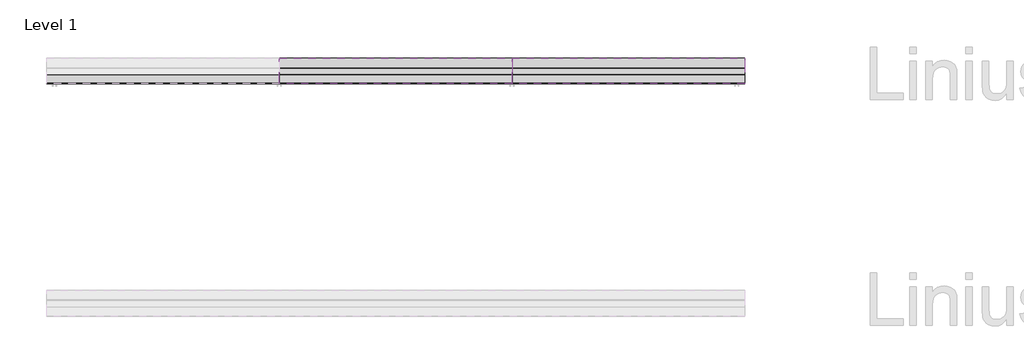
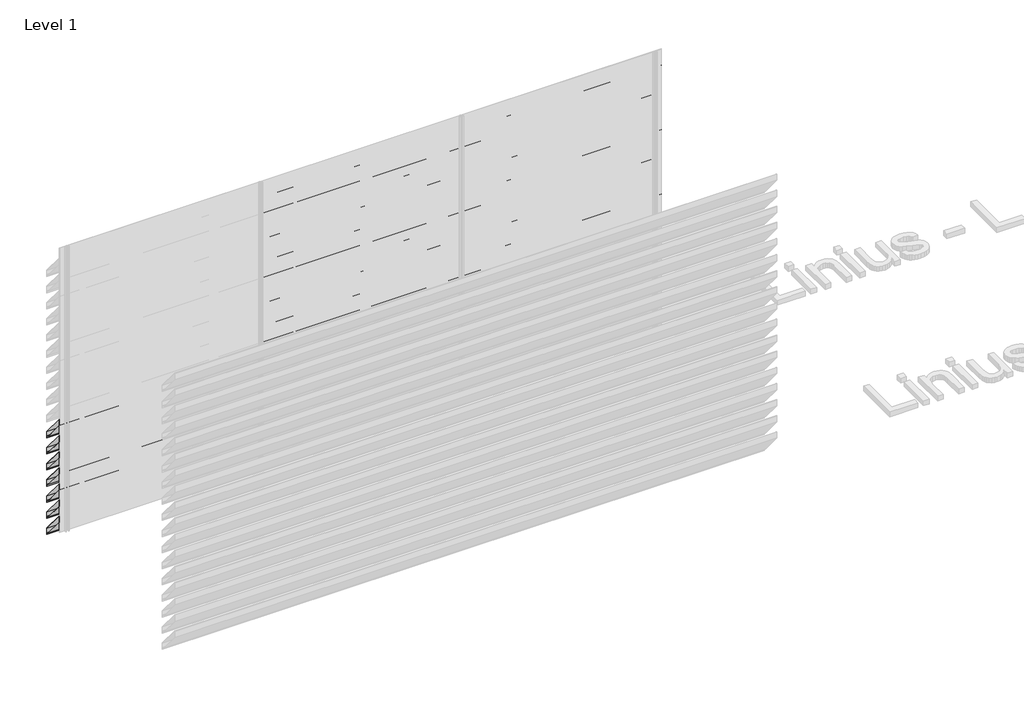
# One storey, part 100 of 121: 41 proxies.
"""IFC4 building model written with IfcOpenShell, lengths in millimetres."""

from ifc_helpers import new_model, si_unit, frame, origin, place, context, project, spatial, polyline, outline, extrude, element, save

model = new_model("IFC4")

# Units and contexts
model_context = context("Model", 3, world=origin())
ifc_project = project(units=[si_unit("LENGTHUNIT", "METRE", prefix="MILLI")], contexts=[model_context])

# Site, building, storey
site = spatial("IfcSite", under=ifc_project)
building = spatial("IfcBuilding", under=site)
storey = spatial("IfcBuildingStorey", under=building, Name="Level 1", Elevation=0.0)

# Proxies
placement = place(None, origin())
element("IfcBuildingElementProxy", 1, Name="Wall Sweeps", at=placement, inside=storey, context=model_context, shape_type="SweptSolid", body=[
    extrude(outline(polyline([(66705.0540136, 931.0), (66705.0540136, 862.0), (66702.5540136, 863.1657691), (66702.5540136, 876.7059843), (66685.8041465, 896.6676986), (66675.1189071, 896.6676986), (66483.0540136, 1125.5617253), (66483.0540136, 1190.0), (66487.7272091, 1190.0), (66705.0540136, 931.0)]), holes=[polyline([(66486.8412246, 1188.1), (66484.9540136, 1188.1), (66484.9540136, 1126.2532688), (66676.0048916, 898.5676986), (66686.6901311, 898.5676986), (66703.1540136, 878.9468074), (66703.1540136, 930.3084566), (66486.8412246, 1188.1)])]), frame((466.6208097, 0.0, 0.0), z_axis=(1.0, 0.0, 0.0), x_axis=(0.0, 1.0, 0.0)), (0.0, 0.0, 1.0), 2000.0),
])
element("IfcBuildingElementProxy", 2, Name="Wall Sweeps", at=placement, inside=storey, context=model_context, shape_type="SweptSolid", body=[
    extrude(outline(polyline([(66705.0540136, 761.0), (66705.0540136, 692.0), (66702.5540136, 693.1657691), (66702.5540136, 706.7059843), (66685.8041465, 726.6676986), (66675.1189071, 726.6676986), (66483.0540136, 955.5617253), (66483.0540136, 1020.0), (66487.7272091, 1020.0), (66705.0540136, 761.0)]), holes=[polyline([(66486.8412246, 1018.1), (66484.9540136, 1018.1), (66484.9540136, 956.2532688), (66676.0048916, 728.5676986), (66686.6901311, 728.5676986), (66703.1540136, 708.9468074), (66703.1540136, 760.3084566), (66486.8412246, 1018.1)])]), frame((466.6208097, 0.0, 0.0), z_axis=(1.0, 0.0, 0.0), x_axis=(0.0, 1.0, 0.0)), (0.0, 0.0, 1.0), 2000.0),
])
element("IfcBuildingElementProxy", 3, Name="Wall Sweeps", at=placement, inside=storey, context=model_context, shape_type="SweptSolid", body=[
    extrude(outline(polyline([(66705.0540136, 591.0), (66705.0540136, 522.0), (66702.5540136, 523.1657691), (66702.5540136, 536.7059843), (66685.8041465, 556.6676986), (66675.1189071, 556.6676986), (66483.0540136, 785.5617253), (66483.0540136, 850.0), (66487.7272091, 850.0), (66705.0540136, 591.0)]), holes=[polyline([(66486.8412246, 848.1), (66484.9540136, 848.1), (66484.9540136, 786.2532688), (66676.0048916, 558.5676986), (66686.6901311, 558.5676986), (66703.1540136, 538.9468074), (66703.1540136, 590.3084566), (66486.8412246, 848.1)])]), frame((466.6208097, 0.0, 0.0), z_axis=(1.0, 0.0, 0.0), x_axis=(0.0, 1.0, 0.0)), (0.0, 0.0, 1.0), 2000.0),
])
element("IfcBuildingElementProxy", 4, Name="Wall Sweeps", at=placement, inside=storey, context=model_context, shape_type="SweptSolid", body=[
    extrude(outline(polyline([(66705.0540136, 421.0), (66705.0540136, 352.0), (66702.5540136, 353.1657691), (66702.5540136, 366.7059843), (66685.8041465, 386.6676986), (66675.1189071, 386.6676986), (66483.0540136, 615.5617253), (66483.0540136, 680.0), (66487.7272091, 680.0), (66705.0540136, 421.0)]), holes=[polyline([(66486.8412246, 678.1), (66484.9540136, 678.1), (66484.9540136, 616.2532688), (66676.0048916, 388.5676986), (66686.6901311, 388.5676986), (66703.1540136, 368.9468074), (66703.1540136, 420.3084566), (66486.8412246, 678.1)])]), frame((466.6208097, 0.0, 0.0), z_axis=(1.0, 0.0, 0.0), x_axis=(0.0, 1.0, 0.0)), (0.0, 0.0, 1.0), 2000.0),
])
element("IfcBuildingElementProxy", 5, Name="Wall Sweeps", at=placement, inside=storey, context=model_context, shape_type="SweptSolid", body=[
    extrude(outline(polyline([(66705.0540136, 251.0), (66705.0540136, 182.0), (66702.5540136, 183.1657691), (66702.5540136, 196.7059843), (66685.8041465, 216.6676986), (66675.1189071, 216.6676986), (66483.0540136, 445.5617253), (66483.0540136, 510.0), (66487.7272091, 510.0), (66705.0540136, 251.0)]), holes=[polyline([(66486.8412246, 508.1), (66484.9540136, 508.1), (66484.9540136, 446.2532688), (66676.0048916, 218.5676986), (66686.6901311, 218.5676986), (66703.1540136, 198.9468074), (66703.1540136, 250.3084566), (66486.8412246, 508.1)])]), frame((466.6208097, 0.0, 0.0), z_axis=(1.0, 0.0, 0.0), x_axis=(0.0, 1.0, 0.0)), (0.0, 0.0, 1.0), 2000.0),
])
element("IfcBuildingElementProxy", 6, Name="Wall Sweeps", at=placement, inside=storey, context=model_context, shape_type="SweptSolid", body=[
    extrude(outline(polyline([(66705.0540136, 81.0), (66705.0540136, 12.0), (66702.5540136, 13.1657691), (66702.5540136, 26.7059843), (66685.8041465, 46.6676986), (66675.1189071, 46.6676986), (66483.0540136, 275.5617253), (66483.0540136, 340.0), (66487.7272091, 340.0), (66705.0540136, 81.0)]), holes=[polyline([(66486.8412246, 338.1), (66484.9540136, 338.1), (66484.9540136, 276.2532688), (66676.0048916, 48.5676986), (66686.6901311, 48.5676986), (66703.1540136, 28.9468074), (66703.1540136, 80.3084566), (66486.8412246, 338.1)])]), frame((466.6208097, 0.0, 0.0), z_axis=(1.0, 0.0, 0.0), x_axis=(0.0, 1.0, 0.0)), (0.0, 0.0, 1.0), 2000.0),
])
element("IfcBuildingElementProxy", 7, Name="Wall Sweeps", at=placement, inside=storey, context=model_context, shape_type="SweptSolid", body=[
    extrude(outline(polyline([(66705.0540136, -89.0), (66705.0540136, -158.0), (66702.5540136, -156.8342309), (66702.5540136, -143.2940157), (66685.8041465, -123.3323014), (66675.1189071, -123.3323014), (66483.0540136, 105.5617253), (66483.0540136, 170.0), (66487.7272091, 170.0), (66705.0540136, -89.0)]), holes=[polyline([(66486.8412246, 168.1), (66484.9540136, 168.1), (66484.9540136, 106.2532688), (66676.0048916, -121.4323014), (66686.6901311, -121.4323014), (66703.1540136, -141.0531926), (66703.1540136, -89.6915434), (66486.8412246, 168.1)])]), frame((466.6208097, 0.0, 0.0), z_axis=(1.0, 0.0, 0.0), x_axis=(0.0, 1.0, 0.0)), (0.0, 0.0, 1.0), 2000.0),
])
element("IfcBuildingElementProxy", 8, Name="Wall Sweeps", at=placement, inside=storey, context=model_context, shape_type="SweptSolid", body=[
    extrude(outline(polyline([(66705.0540136, 2631.0), (66705.0540136, 2562.0), (66702.5540136, 2563.1657691), (66702.5540136, 2576.7059843), (66685.8041465, 2596.6676986), (66675.1189071, 2596.6676986), (66483.0540136, 2825.5617253), (66483.0540136, 2890.0), (66487.7272091, 2890.0), (66705.0540136, 2631.0)]), holes=[polyline([(66486.8412246, 2888.1), (66484.9540136, 2888.1), (66484.9540136, 2826.2532688), (66676.0048916, 2598.5676986), (66686.6901311, 2598.5676986), (66703.1540136, 2578.9468074), (66703.1540136, 2630.3084566), (66486.8412246, 2888.1)])]), frame((2466.6208097, 0.0, 0.0), z_axis=(1.0, 0.0, 0.0), x_axis=(0.0, 1.0, 0.0)), (0.0, 0.0, 1.0), 2000.0),
])
element("IfcBuildingElementProxy", 9, Name="Wall Sweeps", at=placement, inside=storey, context=model_context, shape_type="SweptSolid", body=[
    extrude(outline(polyline([(66705.0540136, 2461.0), (66705.0540136, 2392.0), (66702.5540136, 2393.1657691), (66702.5540136, 2406.7059843), (66685.8041465, 2426.6676986), (66675.1189071, 2426.6676986), (66483.0540136, 2655.5617253), (66483.0540136, 2720.0), (66487.7272091, 2720.0), (66705.0540136, 2461.0)]), holes=[polyline([(66486.8412246, 2718.1), (66484.9540136, 2718.1), (66484.9540136, 2656.2532688), (66676.0048916, 2428.5676986), (66686.6901311, 2428.5676986), (66703.1540136, 2408.9468074), (66703.1540136, 2460.3084566), (66486.8412246, 2718.1)])]), frame((2466.6208097, 0.0, 0.0), z_axis=(1.0, 0.0, 0.0), x_axis=(0.0, 1.0, 0.0)), (0.0, 0.0, 1.0), 2000.0),
])
element("IfcBuildingElementProxy", 10, Name="Wall Sweeps", at=placement, inside=storey, context=model_context, shape_type="SweptSolid", body=[
    extrude(outline(polyline([(66705.0540136, 2291.0), (66705.0540136, 2222.0), (66702.5540136, 2223.1657691), (66702.5540136, 2236.7059843), (66685.8041465, 2256.6676986), (66675.1189071, 2256.6676986), (66483.0540136, 2485.5617253), (66483.0540136, 2550.0), (66487.7272091, 2550.0), (66705.0540136, 2291.0)]), holes=[polyline([(66486.8412246, 2548.1), (66484.9540136, 2548.1), (66484.9540136, 2486.2532688), (66676.0048916, 2258.5676986), (66686.6901311, 2258.5676986), (66703.1540136, 2238.9468074), (66703.1540136, 2290.3084566), (66486.8412246, 2548.1)])]), frame((2466.6208097, 0.0, 0.0), z_axis=(1.0, 0.0, 0.0), x_axis=(0.0, 1.0, 0.0)), (0.0, 0.0, 1.0), 2000.0),
])
element("IfcBuildingElementProxy", 11, Name="Wall Sweeps", at=placement, inside=storey, context=model_context, shape_type="SweptSolid", body=[
    extrude(outline(polyline([(66705.0540136, 2121.0), (66705.0540136, 2052.0), (66702.5540136, 2053.1657691), (66702.5540136, 2066.7059843), (66685.8041465, 2086.6676986), (66675.1189071, 2086.6676986), (66483.0540136, 2315.5617253), (66483.0540136, 2380.0), (66487.7272091, 2380.0), (66705.0540136, 2121.0)]), holes=[polyline([(66486.8412246, 2378.1), (66484.9540136, 2378.1), (66484.9540136, 2316.2532688), (66676.0048916, 2088.5676986), (66686.6901311, 2088.5676986), (66703.1540136, 2068.9468074), (66703.1540136, 2120.3084566), (66486.8412246, 2378.1)])]), frame((2466.6208097, 0.0, 0.0), z_axis=(1.0, 0.0, 0.0), x_axis=(0.0, 1.0, 0.0)), (0.0, 0.0, 1.0), 2000.0),
])
element("IfcBuildingElementProxy", 12, Name="Wall Sweeps", at=placement, inside=storey, context=model_context, shape_type="SweptSolid", body=[
    extrude(outline(polyline([(66705.0540136, 1951.0), (66705.0540136, 1882.0), (66702.5540136, 1883.1657691), (66702.5540136, 1896.7059843), (66685.8041465, 1916.6676986), (66675.1189071, 1916.6676986), (66483.0540136, 2145.5617253), (66483.0540136, 2210.0), (66487.7272091, 2210.0), (66705.0540136, 1951.0)]), holes=[polyline([(66486.8412246, 2208.1), (66484.9540136, 2208.1), (66484.9540136, 2146.2532688), (66676.0048916, 1918.5676986), (66686.6901311, 1918.5676986), (66703.1540136, 1898.9468074), (66703.1540136, 1950.3084566), (66486.8412246, 2208.1)])]), frame((2466.6208097, 0.0, 0.0), z_axis=(1.0, 0.0, 0.0), x_axis=(0.0, 1.0, 0.0)), (0.0, 0.0, 1.0), 2000.0),
])
element("IfcBuildingElementProxy", 13, Name="Wall Sweeps", at=placement, inside=storey, context=model_context, shape_type="SweptSolid", body=[
    extrude(outline(polyline([(66705.0540136, 1781.0), (66705.0540136, 1712.0), (66702.5540136, 1713.1657691), (66702.5540136, 1726.7059843), (66685.8041465, 1746.6676986), (66675.1189071, 1746.6676986), (66483.0540136, 1975.5617253), (66483.0540136, 2040.0), (66487.7272091, 2040.0), (66705.0540136, 1781.0)]), holes=[polyline([(66486.8412246, 2038.1), (66484.9540136, 2038.1), (66484.9540136, 1976.2532688), (66676.0048916, 1748.5676986), (66686.6901311, 1748.5676986), (66703.1540136, 1728.9468074), (66703.1540136, 1780.3084566), (66486.8412246, 2038.1)])]), frame((2466.6208097, 0.0, 0.0), z_axis=(1.0, 0.0, 0.0), x_axis=(0.0, 1.0, 0.0)), (0.0, 0.0, 1.0), 2000.0),
])
element("IfcBuildingElementProxy", 14, Name="Wall Sweeps", at=placement, inside=storey, context=model_context, shape_type="SweptSolid", body=[
    extrude(outline(polyline([(66705.0540136, 1611.0), (66705.0540136, 1542.0), (66702.5540136, 1543.1657691), (66702.5540136, 1556.7059843), (66685.8041465, 1576.6676986), (66675.1189071, 1576.6676986), (66483.0540136, 1805.5617253), (66483.0540136, 1870.0), (66487.7272091, 1870.0), (66705.0540136, 1611.0)]), holes=[polyline([(66486.8412246, 1868.1), (66484.9540136, 1868.1), (66484.9540136, 1806.2532688), (66676.0048916, 1578.5676986), (66686.6901311, 1578.5676986), (66703.1540136, 1558.9468074), (66703.1540136, 1610.3084566), (66486.8412246, 1868.1)])]), frame((2466.6208097, 0.0, 0.0), z_axis=(1.0, 0.0, 0.0), x_axis=(0.0, 1.0, 0.0)), (0.0, 0.0, 1.0), 2000.0),
])
element("IfcBuildingElementProxy", 15, Name="Wall Sweeps", at=placement, inside=storey, context=model_context, shape_type="SweptSolid", body=[
    extrude(outline(polyline([(66705.0540136, 1441.0), (66705.0540136, 1372.0), (66702.5540136, 1373.1657691), (66702.5540136, 1386.7059843), (66685.8041465, 1406.6676986), (66675.1189071, 1406.6676986), (66483.0540136, 1635.5617253), (66483.0540136, 1700.0), (66487.7272091, 1700.0), (66705.0540136, 1441.0)]), holes=[polyline([(66486.8412246, 1698.1), (66484.9540136, 1698.1), (66484.9540136, 1636.2532688), (66676.0048916, 1408.5676986), (66686.6901311, 1408.5676986), (66703.1540136, 1388.9468074), (66703.1540136, 1440.3084566), (66486.8412246, 1698.1)])]), frame((2466.6208097, 0.0, 0.0), z_axis=(1.0, 0.0, 0.0), x_axis=(0.0, 1.0, 0.0)), (0.0, 0.0, 1.0), 2000.0),
])
element("IfcBuildingElementProxy", 16, Name="Wall Sweeps", at=placement, inside=storey, context=model_context, shape_type="SweptSolid", body=[
    extrude(outline(polyline([(66705.0540136, 1271.0), (66705.0540136, 1202.0), (66702.5540136, 1203.1657691), (66702.5540136, 1216.7059843), (66685.8041465, 1236.6676986), (66675.1189071, 1236.6676986), (66483.0540136, 1465.5617253), (66483.0540136, 1530.0), (66487.7272091, 1530.0), (66705.0540136, 1271.0)]), holes=[polyline([(66486.8412246, 1528.1), (66484.9540136, 1528.1), (66484.9540136, 1466.2532688), (66676.0048916, 1238.5676986), (66686.6901311, 1238.5676986), (66703.1540136, 1218.9468074), (66703.1540136, 1270.3084566), (66486.8412246, 1528.1)])]), frame((2466.6208097, 0.0, 0.0), z_axis=(1.0, 0.0, 0.0), x_axis=(0.0, 1.0, 0.0)), (0.0, 0.0, 1.0), 2000.0),
])
element("IfcBuildingElementProxy", 17, Name="Wall Sweeps", at=placement, inside=storey, context=model_context, shape_type="SweptSolid", body=[
    extrude(outline(polyline([(66705.0540136, 1101.0), (66705.0540136, 1032.0), (66702.5540136, 1033.1657691), (66702.5540136, 1046.7059843), (66685.8041465, 1066.6676986), (66675.1189071, 1066.6676986), (66483.0540136, 1295.5617253), (66483.0540136, 1360.0), (66487.7272091, 1360.0), (66705.0540136, 1101.0)]), holes=[polyline([(66486.8412246, 1358.1), (66484.9540136, 1358.1), (66484.9540136, 1296.2532688), (66676.0048916, 1068.5676986), (66686.6901311, 1068.5676986), (66703.1540136, 1048.9468074), (66703.1540136, 1100.3084566), (66486.8412246, 1358.1)])]), frame((2466.6208097, 0.0, 0.0), z_axis=(1.0, 0.0, 0.0), x_axis=(0.0, 1.0, 0.0)), (0.0, 0.0, 1.0), 2000.0),
])
element("IfcBuildingElementProxy", 18, Name="Wall Sweeps", at=placement, inside=storey, context=model_context, shape_type="SweptSolid", body=[
    extrude(outline(polyline([(66705.0540136, 931.0), (66705.0540136, 862.0), (66702.5540136, 863.1657691), (66702.5540136, 876.7059843), (66685.8041465, 896.6676986), (66675.1189071, 896.6676986), (66483.0540136, 1125.5617253), (66483.0540136, 1190.0), (66487.7272091, 1190.0), (66705.0540136, 931.0)]), holes=[polyline([(66486.8412246, 1188.1), (66484.9540136, 1188.1), (66484.9540136, 1126.2532688), (66676.0048916, 898.5676986), (66686.6901311, 898.5676986), (66703.1540136, 878.9468074), (66703.1540136, 930.3084566), (66486.8412246, 1188.1)])]), frame((2466.6208097, 0.0, 0.0), z_axis=(1.0, 0.0, 0.0), x_axis=(0.0, 1.0, 0.0)), (0.0, 0.0, 1.0), 2000.0),
])
element("IfcBuildingElementProxy", 19, Name="Wall Sweeps", at=placement, inside=storey, context=model_context, shape_type="SweptSolid", body=[
    extrude(outline(polyline([(66705.0540136, 761.0), (66705.0540136, 692.0), (66702.5540136, 693.1657691), (66702.5540136, 706.7059843), (66685.8041465, 726.6676986), (66675.1189071, 726.6676986), (66483.0540136, 955.5617253), (66483.0540136, 1020.0), (66487.7272091, 1020.0), (66705.0540136, 761.0)]), holes=[polyline([(66486.8412246, 1018.1), (66484.9540136, 1018.1), (66484.9540136, 956.2532688), (66676.0048916, 728.5676986), (66686.6901311, 728.5676986), (66703.1540136, 708.9468074), (66703.1540136, 760.3084566), (66486.8412246, 1018.1)])]), frame((2466.6208097, 0.0, 0.0), z_axis=(1.0, 0.0, 0.0), x_axis=(0.0, 1.0, 0.0)), (0.0, 0.0, 1.0), 2000.0),
])
element("IfcBuildingElementProxy", 20, Name="Wall Sweeps", at=placement, inside=storey, context=model_context, shape_type="SweptSolid", body=[
    extrude(outline(polyline([(66705.0540136, 591.0), (66705.0540136, 522.0), (66702.5540136, 523.1657691), (66702.5540136, 536.7059843), (66685.8041465, 556.6676986), (66675.1189071, 556.6676986), (66483.0540136, 785.5617253), (66483.0540136, 850.0), (66487.7272091, 850.0), (66705.0540136, 591.0)]), holes=[polyline([(66486.8412246, 848.1), (66484.9540136, 848.1), (66484.9540136, 786.2532688), (66676.0048916, 558.5676986), (66686.6901311, 558.5676986), (66703.1540136, 538.9468074), (66703.1540136, 590.3084566), (66486.8412246, 848.1)])]), frame((2466.6208097, 0.0, 0.0), z_axis=(1.0, 0.0, 0.0), x_axis=(0.0, 1.0, 0.0)), (0.0, 0.0, 1.0), 2000.0),
])
element("IfcBuildingElementProxy", 21, Name="Wall Sweeps", at=placement, inside=storey, context=model_context, shape_type="SweptSolid", body=[
    extrude(outline(polyline([(66705.0540136, 421.0), (66705.0540136, 352.0), (66702.5540136, 353.1657691), (66702.5540136, 366.7059843), (66685.8041465, 386.6676986), (66675.1189071, 386.6676986), (66483.0540136, 615.5617253), (66483.0540136, 680.0), (66487.7272091, 680.0), (66705.0540136, 421.0)]), holes=[polyline([(66486.8412246, 678.1), (66484.9540136, 678.1), (66484.9540136, 616.2532688), (66676.0048916, 388.5676986), (66686.6901311, 388.5676986), (66703.1540136, 368.9468074), (66703.1540136, 420.3084566), (66486.8412246, 678.1)])]), frame((2466.6208097, 0.0, 0.0), z_axis=(1.0, 0.0, 0.0), x_axis=(0.0, 1.0, 0.0)), (0.0, 0.0, 1.0), 2000.0),
])
element("IfcBuildingElementProxy", 22, Name="Wall Sweeps", at=placement, inside=storey, context=model_context, shape_type="SweptSolid", body=[
    extrude(outline(polyline([(66705.0540136, 251.0), (66705.0540136, 182.0), (66702.5540136, 183.1657691), (66702.5540136, 196.7059843), (66685.8041465, 216.6676986), (66675.1189071, 216.6676986), (66483.0540136, 445.5617253), (66483.0540136, 510.0), (66487.7272091, 510.0), (66705.0540136, 251.0)]), holes=[polyline([(66486.8412246, 508.1), (66484.9540136, 508.1), (66484.9540136, 446.2532688), (66676.0048916, 218.5676986), (66686.6901311, 218.5676986), (66703.1540136, 198.9468074), (66703.1540136, 250.3084566), (66486.8412246, 508.1)])]), frame((2466.6208097, 0.0, 0.0), z_axis=(1.0, 0.0, 0.0), x_axis=(0.0, 1.0, 0.0)), (0.0, 0.0, 1.0), 2000.0),
])
element("IfcBuildingElementProxy", 23, Name="Wall Sweeps", at=placement, inside=storey, context=model_context, shape_type="SweptSolid", body=[
    extrude(outline(polyline([(66705.0540136, 81.0), (66705.0540136, 12.0), (66702.5540136, 13.1657691), (66702.5540136, 26.7059843), (66685.8041465, 46.6676986), (66675.1189071, 46.6676986), (66483.0540136, 275.5617253), (66483.0540136, 340.0), (66487.7272091, 340.0), (66705.0540136, 81.0)]), holes=[polyline([(66486.8412246, 338.1), (66484.9540136, 338.1), (66484.9540136, 276.2532688), (66676.0048916, 48.5676986), (66686.6901311, 48.5676986), (66703.1540136, 28.9468074), (66703.1540136, 80.3084566), (66486.8412246, 338.1)])]), frame((2466.6208097, 0.0, 0.0), z_axis=(1.0, 0.0, 0.0), x_axis=(0.0, 1.0, 0.0)), (0.0, 0.0, 1.0), 2000.0),
])
element("IfcBuildingElementProxy", 24, Name="Wall Sweeps", at=placement, inside=storey, context=model_context, shape_type="SweptSolid", body=[
    extrude(outline(polyline([(66705.0540136, -89.0), (66705.0540136, -158.0), (66702.5540136, -156.8342309), (66702.5540136, -143.2940157), (66685.8041465, -123.3323014), (66675.1189071, -123.3323014), (66483.0540136, 105.5617253), (66483.0540136, 170.0), (66487.7272091, 170.0), (66705.0540136, -89.0)]), holes=[polyline([(66486.8412246, 168.1), (66484.9540136, 168.1), (66484.9540136, 106.2532688), (66676.0048916, -121.4323014), (66686.6901311, -121.4323014), (66703.1540136, -141.0531926), (66703.1540136, -89.6915434), (66486.8412246, 168.1)])]), frame((2466.6208097, 0.0, 0.0), z_axis=(1.0, 0.0, 0.0), x_axis=(0.0, 1.0, 0.0)), (0.0, 0.0, 1.0), 2000.0),
])
element("IfcBuildingElementProxy", 25, Name="Wall Sweeps", at=placement, inside=storey, context=model_context, shape_type="SweptSolid", body=[
    extrude(outline(polyline([(66705.0540136, 2631.0), (66705.0540136, 2562.0), (66702.5540136, 2563.1657691), (66702.5540136, 2576.7059843), (66685.8041465, 2596.6676986), (66675.1189071, 2596.6676986), (66483.0540136, 2825.5617253), (66483.0540136, 2890.0), (66487.7272091, 2890.0), (66705.0540136, 2631.0)]), holes=[polyline([(66486.8412246, 2888.1), (66484.9540136, 2888.1), (66484.9540136, 2826.2532688), (66676.0048916, 2598.5676986), (66686.6901311, 2598.5676986), (66703.1540136, 2578.9468074), (66703.1540136, 2630.3084566), (66486.8412246, 2888.1)])]), frame((4466.6208097, 0.0, 0.0), z_axis=(1.0, 0.0, 0.0), x_axis=(0.0, 1.0, 0.0)), (0.0, 0.0, 1.0), 2000.0),
])
element("IfcBuildingElementProxy", 26, Name="Wall Sweeps", at=placement, inside=storey, context=model_context, shape_type="SweptSolid", body=[
    extrude(outline(polyline([(66705.0540136, 2461.0), (66705.0540136, 2392.0), (66702.5540136, 2393.1657691), (66702.5540136, 2406.7059843), (66685.8041465, 2426.6676986), (66675.1189071, 2426.6676986), (66483.0540136, 2655.5617253), (66483.0540136, 2720.0), (66487.7272091, 2720.0), (66705.0540136, 2461.0)]), holes=[polyline([(66486.8412246, 2718.1), (66484.9540136, 2718.1), (66484.9540136, 2656.2532688), (66676.0048916, 2428.5676986), (66686.6901311, 2428.5676986), (66703.1540136, 2408.9468074), (66703.1540136, 2460.3084566), (66486.8412246, 2718.1)])]), frame((4466.6208097, 0.0, 0.0), z_axis=(1.0, 0.0, 0.0), x_axis=(0.0, 1.0, 0.0)), (0.0, 0.0, 1.0), 2000.0),
])
element("IfcBuildingElementProxy", 27, Name="Wall Sweeps", at=placement, inside=storey, context=model_context, shape_type="SweptSolid", body=[
    extrude(outline(polyline([(66705.0540136, 2291.0), (66705.0540136, 2222.0), (66702.5540136, 2223.1657691), (66702.5540136, 2236.7059843), (66685.8041465, 2256.6676986), (66675.1189071, 2256.6676986), (66483.0540136, 2485.5617253), (66483.0540136, 2550.0), (66487.7272091, 2550.0), (66705.0540136, 2291.0)]), holes=[polyline([(66486.8412246, 2548.1), (66484.9540136, 2548.1), (66484.9540136, 2486.2532688), (66676.0048916, 2258.5676986), (66686.6901311, 2258.5676986), (66703.1540136, 2238.9468074), (66703.1540136, 2290.3084566), (66486.8412246, 2548.1)])]), frame((4466.6208097, 0.0, 0.0), z_axis=(1.0, 0.0, 0.0), x_axis=(0.0, 1.0, 0.0)), (0.0, 0.0, 1.0), 2000.0),
])
element("IfcBuildingElementProxy", 28, Name="Wall Sweeps", at=placement, inside=storey, context=model_context, shape_type="SweptSolid", body=[
    extrude(outline(polyline([(66705.0540136, 2121.0), (66705.0540136, 2052.0), (66702.5540136, 2053.1657691), (66702.5540136, 2066.7059843), (66685.8041465, 2086.6676986), (66675.1189071, 2086.6676986), (66483.0540136, 2315.5617253), (66483.0540136, 2380.0), (66487.7272091, 2380.0), (66705.0540136, 2121.0)]), holes=[polyline([(66486.8412246, 2378.1), (66484.9540136, 2378.1), (66484.9540136, 2316.2532688), (66676.0048916, 2088.5676986), (66686.6901311, 2088.5676986), (66703.1540136, 2068.9468074), (66703.1540136, 2120.3084566), (66486.8412246, 2378.1)])]), frame((4466.6208097, 0.0, 0.0), z_axis=(1.0, 0.0, 0.0), x_axis=(0.0, 1.0, 0.0)), (0.0, 0.0, 1.0), 2000.0),
])
element("IfcBuildingElementProxy", 29, Name="Wall Sweeps", at=placement, inside=storey, context=model_context, shape_type="SweptSolid", body=[
    extrude(outline(polyline([(66705.0540136, 1951.0), (66705.0540136, 1882.0), (66702.5540136, 1883.1657691), (66702.5540136, 1896.7059843), (66685.8041465, 1916.6676986), (66675.1189071, 1916.6676986), (66483.0540136, 2145.5617253), (66483.0540136, 2210.0), (66487.7272091, 2210.0), (66705.0540136, 1951.0)]), holes=[polyline([(66486.8412246, 2208.1), (66484.9540136, 2208.1), (66484.9540136, 2146.2532688), (66676.0048916, 1918.5676986), (66686.6901311, 1918.5676986), (66703.1540136, 1898.9468074), (66703.1540136, 1950.3084566), (66486.8412246, 2208.1)])]), frame((4466.6208097, 0.0, 0.0), z_axis=(1.0, 0.0, 0.0), x_axis=(0.0, 1.0, 0.0)), (0.0, 0.0, 1.0), 2000.0),
])
element("IfcBuildingElementProxy", 30, Name="Wall Sweeps", at=placement, inside=storey, context=model_context, shape_type="SweptSolid", body=[
    extrude(outline(polyline([(66705.0540136, 1781.0), (66705.0540136, 1712.0), (66702.5540136, 1713.1657691), (66702.5540136, 1726.7059843), (66685.8041465, 1746.6676986), (66675.1189071, 1746.6676986), (66483.0540136, 1975.5617253), (66483.0540136, 2040.0), (66487.7272091, 2040.0), (66705.0540136, 1781.0)]), holes=[polyline([(66486.8412246, 2038.1), (66484.9540136, 2038.1), (66484.9540136, 1976.2532688), (66676.0048916, 1748.5676986), (66686.6901311, 1748.5676986), (66703.1540136, 1728.9468074), (66703.1540136, 1780.3084566), (66486.8412246, 2038.1)])]), frame((4466.6208097, 0.0, 0.0), z_axis=(1.0, 0.0, 0.0), x_axis=(0.0, 1.0, 0.0)), (0.0, 0.0, 1.0), 2000.0),
])
element("IfcBuildingElementProxy", 31, Name="Wall Sweeps", at=placement, inside=storey, context=model_context, shape_type="SweptSolid", body=[
    extrude(outline(polyline([(66705.0540136, 1611.0), (66705.0540136, 1542.0), (66702.5540136, 1543.1657691), (66702.5540136, 1556.7059843), (66685.8041465, 1576.6676986), (66675.1189071, 1576.6676986), (66483.0540136, 1805.5617253), (66483.0540136, 1870.0), (66487.7272091, 1870.0), (66705.0540136, 1611.0)]), holes=[polyline([(66486.8412246, 1868.1), (66484.9540136, 1868.1), (66484.9540136, 1806.2532688), (66676.0048916, 1578.5676986), (66686.6901311, 1578.5676986), (66703.1540136, 1558.9468074), (66703.1540136, 1610.3084566), (66486.8412246, 1868.1)])]), frame((4466.6208097, 0.0, 0.0), z_axis=(1.0, 0.0, 0.0), x_axis=(0.0, 1.0, 0.0)), (0.0, 0.0, 1.0), 2000.0),
])
element("IfcBuildingElementProxy", 32, Name="Wall Sweeps", at=placement, inside=storey, context=model_context, shape_type="SweptSolid", body=[
    extrude(outline(polyline([(66705.0540136, 1441.0), (66705.0540136, 1372.0), (66702.5540136, 1373.1657691), (66702.5540136, 1386.7059843), (66685.8041465, 1406.6676986), (66675.1189071, 1406.6676986), (66483.0540136, 1635.5617253), (66483.0540136, 1700.0), (66487.7272091, 1700.0), (66705.0540136, 1441.0)]), holes=[polyline([(66486.8412246, 1698.1), (66484.9540136, 1698.1), (66484.9540136, 1636.2532688), (66676.0048916, 1408.5676986), (66686.6901311, 1408.5676986), (66703.1540136, 1388.9468074), (66703.1540136, 1440.3084566), (66486.8412246, 1698.1)])]), frame((4466.6208097, 0.0, 0.0), z_axis=(1.0, 0.0, 0.0), x_axis=(0.0, 1.0, 0.0)), (0.0, 0.0, 1.0), 2000.0),
])
element("IfcBuildingElementProxy", 33, Name="Wall Sweeps", at=placement, inside=storey, context=model_context, shape_type="SweptSolid", body=[
    extrude(outline(polyline([(66705.0540136, 1271.0), (66705.0540136, 1202.0), (66702.5540136, 1203.1657691), (66702.5540136, 1216.7059843), (66685.8041465, 1236.6676986), (66675.1189071, 1236.6676986), (66483.0540136, 1465.5617253), (66483.0540136, 1530.0), (66487.7272091, 1530.0), (66705.0540136, 1271.0)]), holes=[polyline([(66486.8412246, 1528.1), (66484.9540136, 1528.1), (66484.9540136, 1466.2532688), (66676.0048916, 1238.5676986), (66686.6901311, 1238.5676986), (66703.1540136, 1218.9468074), (66703.1540136, 1270.3084566), (66486.8412246, 1528.1)])]), frame((4466.6208097, 0.0, 0.0), z_axis=(1.0, 0.0, 0.0), x_axis=(0.0, 1.0, 0.0)), (0.0, 0.0, 1.0), 2000.0),
])
element("IfcBuildingElementProxy", 34, Name="Wall Sweeps", at=placement, inside=storey, context=model_context, shape_type="SweptSolid", body=[
    extrude(outline(polyline([(66705.0540136, 1101.0), (66705.0540136, 1032.0), (66702.5540136, 1033.1657691), (66702.5540136, 1046.7059843), (66685.8041465, 1066.6676986), (66675.1189071, 1066.6676986), (66483.0540136, 1295.5617253), (66483.0540136, 1360.0), (66487.7272091, 1360.0), (66705.0540136, 1101.0)]), holes=[polyline([(66486.8412246, 1358.1), (66484.9540136, 1358.1), (66484.9540136, 1296.2532688), (66676.0048916, 1068.5676986), (66686.6901311, 1068.5676986), (66703.1540136, 1048.9468074), (66703.1540136, 1100.3084566), (66486.8412246, 1358.1)])]), frame((4466.6208097, 0.0, 0.0), z_axis=(1.0, 0.0, 0.0), x_axis=(0.0, 1.0, 0.0)), (0.0, 0.0, 1.0), 2000.0),
])
element("IfcBuildingElementProxy", 35, Name="Wall Sweeps", at=placement, inside=storey, context=model_context, shape_type="SweptSolid", body=[
    extrude(outline(polyline([(66705.0540136, 931.0), (66705.0540136, 862.0), (66702.5540136, 863.1657691), (66702.5540136, 876.7059843), (66685.8041465, 896.6676986), (66675.1189071, 896.6676986), (66483.0540136, 1125.5617253), (66483.0540136, 1190.0), (66487.7272091, 1190.0), (66705.0540136, 931.0)]), holes=[polyline([(66486.8412246, 1188.1), (66484.9540136, 1188.1), (66484.9540136, 1126.2532688), (66676.0048916, 898.5676986), (66686.6901311, 898.5676986), (66703.1540136, 878.9468074), (66703.1540136, 930.3084566), (66486.8412246, 1188.1)])]), frame((4466.6208097, 0.0, 0.0), z_axis=(1.0, 0.0, 0.0), x_axis=(0.0, 1.0, 0.0)), (0.0, 0.0, 1.0), 2000.0),
])
element("IfcBuildingElementProxy", 36, Name="Wall Sweeps", at=placement, inside=storey, context=model_context, shape_type="SweptSolid", body=[
    extrude(outline(polyline([(66705.0540136, 761.0), (66705.0540136, 692.0), (66702.5540136, 693.1657691), (66702.5540136, 706.7059843), (66685.8041465, 726.6676986), (66675.1189071, 726.6676986), (66483.0540136, 955.5617253), (66483.0540136, 1020.0), (66487.7272091, 1020.0), (66705.0540136, 761.0)]), holes=[polyline([(66486.8412246, 1018.1), (66484.9540136, 1018.1), (66484.9540136, 956.2532688), (66676.0048916, 728.5676986), (66686.6901311, 728.5676986), (66703.1540136, 708.9468074), (66703.1540136, 760.3084566), (66486.8412246, 1018.1)])]), frame((4466.6208097, 0.0, 0.0), z_axis=(1.0, 0.0, 0.0), x_axis=(0.0, 1.0, 0.0)), (0.0, 0.0, 1.0), 2000.0),
])
element("IfcBuildingElementProxy", 37, Name="Wall Sweeps", at=placement, inside=storey, context=model_context, shape_type="SweptSolid", body=[
    extrude(outline(polyline([(66705.0540136, 591.0), (66705.0540136, 522.0), (66702.5540136, 523.1657691), (66702.5540136, 536.7059843), (66685.8041465, 556.6676986), (66675.1189071, 556.6676986), (66483.0540136, 785.5617253), (66483.0540136, 850.0), (66487.7272091, 850.0), (66705.0540136, 591.0)]), holes=[polyline([(66486.8412246, 848.1), (66484.9540136, 848.1), (66484.9540136, 786.2532688), (66676.0048916, 558.5676986), (66686.6901311, 558.5676986), (66703.1540136, 538.9468074), (66703.1540136, 590.3084566), (66486.8412246, 848.1)])]), frame((4466.6208097, 0.0, 0.0), z_axis=(1.0, 0.0, 0.0), x_axis=(0.0, 1.0, 0.0)), (0.0, 0.0, 1.0), 2000.0),
])
element("IfcBuildingElementProxy", 38, Name="Wall Sweeps", at=placement, inside=storey, context=model_context, shape_type="SweptSolid", body=[
    extrude(outline(polyline([(66705.0540136, 421.0), (66705.0540136, 352.0), (66702.5540136, 353.1657691), (66702.5540136, 366.7059843), (66685.8041465, 386.6676986), (66675.1189071, 386.6676986), (66483.0540136, 615.5617253), (66483.0540136, 680.0), (66487.7272091, 680.0), (66705.0540136, 421.0)]), holes=[polyline([(66486.8412246, 678.1), (66484.9540136, 678.1), (66484.9540136, 616.2532688), (66676.0048916, 388.5676986), (66686.6901311, 388.5676986), (66703.1540136, 368.9468074), (66703.1540136, 420.3084566), (66486.8412246, 678.1)])]), frame((4466.6208097, 0.0, 0.0), z_axis=(1.0, 0.0, 0.0), x_axis=(0.0, 1.0, 0.0)), (0.0, 0.0, 1.0), 2000.0),
])
element("IfcBuildingElementProxy", 39, Name="Wall Sweeps", at=placement, inside=storey, context=model_context, shape_type="SweptSolid", body=[
    extrude(outline(polyline([(66705.0540136, 251.0), (66705.0540136, 182.0), (66702.5540136, 183.1657691), (66702.5540136, 196.7059843), (66685.8041465, 216.6676986), (66675.1189071, 216.6676986), (66483.0540136, 445.5617253), (66483.0540136, 510.0), (66487.7272091, 510.0), (66705.0540136, 251.0)]), holes=[polyline([(66486.8412246, 508.1), (66484.9540136, 508.1), (66484.9540136, 446.2532688), (66676.0048916, 218.5676986), (66686.6901311, 218.5676986), (66703.1540136, 198.9468074), (66703.1540136, 250.3084566), (66486.8412246, 508.1)])]), frame((4466.6208097, 0.0, 0.0), z_axis=(1.0, 0.0, 0.0), x_axis=(0.0, 1.0, 0.0)), (0.0, 0.0, 1.0), 2000.0),
])
element("IfcBuildingElementProxy", 40, Name="Wall Sweeps", at=placement, inside=storey, context=model_context, shape_type="SweptSolid", body=[
    extrude(outline(polyline([(66705.0540136, 81.0), (66705.0540136, 12.0), (66702.5540136, 13.1657691), (66702.5540136, 26.7059843), (66685.8041465, 46.6676986), (66675.1189071, 46.6676986), (66483.0540136, 275.5617253), (66483.0540136, 340.0), (66487.7272091, 340.0), (66705.0540136, 81.0)]), holes=[polyline([(66486.8412246, 338.1), (66484.9540136, 338.1), (66484.9540136, 276.2532688), (66676.0048916, 48.5676986), (66686.6901311, 48.5676986), (66703.1540136, 28.9468074), (66703.1540136, 80.3084566), (66486.8412246, 338.1)])]), frame((4466.6208097, 0.0, 0.0), z_axis=(1.0, 0.0, 0.0), x_axis=(0.0, 1.0, 0.0)), (0.0, 0.0, 1.0), 2000.0),
])
element("IfcBuildingElementProxy", 41, Name="Wall Sweeps", at=placement, inside=storey, context=model_context, shape_type="SweptSolid", body=[
    extrude(outline(polyline([(66705.0540136, -89.0), (66705.0540136, -158.0), (66702.5540136, -156.8342309), (66702.5540136, -143.2940157), (66685.8041465, -123.3323014), (66675.1189071, -123.3323014), (66483.0540136, 105.5617253), (66483.0540136, 170.0), (66487.7272091, 170.0), (66705.0540136, -89.0)]), holes=[polyline([(66486.8412246, 168.1), (66484.9540136, 168.1), (66484.9540136, 106.2532688), (66676.0048916, -121.4323014), (66686.6901311, -121.4323014), (66703.1540136, -141.0531926), (66703.1540136, -89.6915434), (66486.8412246, 168.1)])]), frame((4466.6208097, 0.0, 0.0), z_axis=(1.0, 0.0, 0.0), x_axis=(0.0, 1.0, 0.0)), (0.0, 0.0, 1.0), 2000.0),
])

save(model, "model.ifc")
